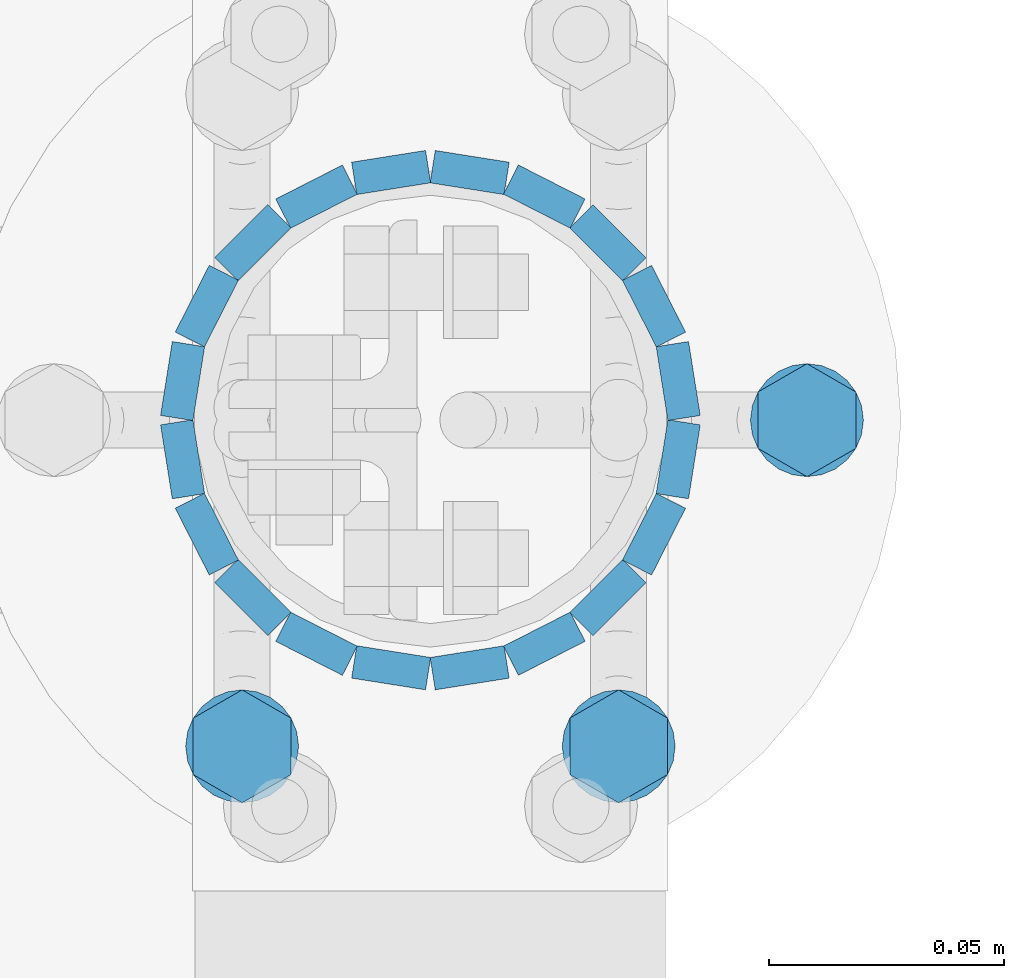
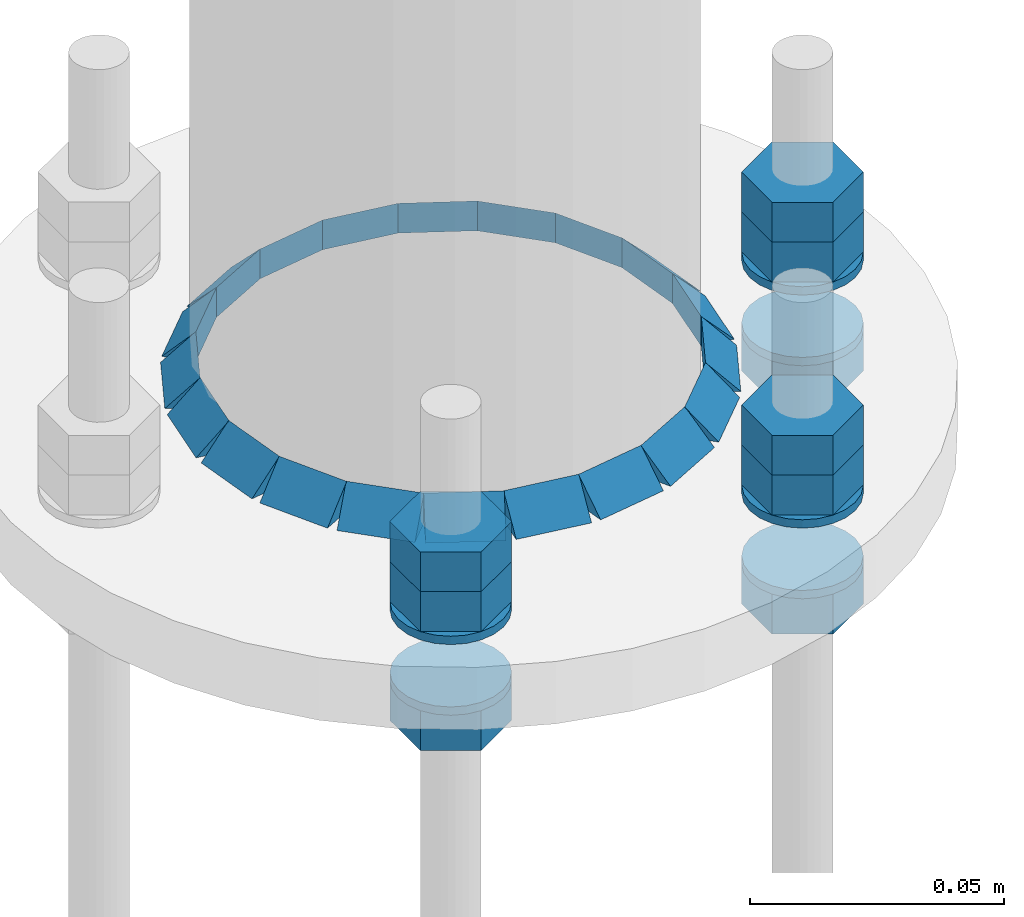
# One storey, part 81 of 84: 40 fasteners, 15 mechanical fasteners.
"""IFC4 building model written with IfcOpenShell, lengths in metres."""

from ifc_helpers import new_model, si_unit, frame, origin_with_axes, place, context, project, spatial, polyline, outline, extrude, type_object, element, save


model = new_model("IFC4")

# Units and contexts
model_context = context("Model", 3, precision=1e-05, world=origin_with_axes())
ifc_project = project(units=[si_unit("LENGTHUNIT", "METRE"), si_unit("AREAUNIT", "SQUARE_METRE"), si_unit("VOLUMEUNIT", "CUBIC_METRE"), si_unit("MASSUNIT", "GRAM", prefix="KILO"), si_unit("TIMEUNIT", "SECOND"), si_unit("PLANEANGLEUNIT", "RADIAN"), si_unit("SOLIDANGLEUNIT", "STERADIAN"), si_unit("THERMODYNAMICTEMPERATUREUNIT", "DEGREE_CELSIUS")], contexts=[model_context])

# Site, building, storey
placement_1 = place(None, origin_with_axes())
site = spatial("IfcSite", under=ifc_project, at=placement_1, Name="Italia", CompositionType="ELEMENT")
building = spatial("IfcBuilding", under=site, at=placement_1, Name="Tettoia", CompositionType="ELEMENT")
storey_placement = place(None, frame((0.0, 0.0, 4.199999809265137), z_axis=(0.0, 0.0, 1.0), x_axis=(1.0, 0.0, 0.0)))
storey = spatial("IfcBuildingStorey", under=building, at=storey_placement, Name="Storey 1", CompositionType="ELEMENT", Elevation=4.199999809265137)

# Fasteners
fastener_type_1 = type_object("IfcFastenerType", Name="Collegamento -015_0115", PredefinedType="WELD")
placement_2 = place(placement_1, origin_with_axes())
fastener_1_placement = place(placement_2, origin_with_axes())
element("IfcFastener", 1, at=fastener_1_placement, inside=storey, type_object=fastener_type_1, Name="Collegamento -015_0115", context=model_context, shape_type="SweptSolid", body=[
    extrude(outline(polyline([(0.0, 0.0), (0.0069561, 0.00717354), (0.0069561, 0.0), (0.0, 0.0)])), frame((4.08674, 19.8748, 4.01495), z_axis=(-0.987689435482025, 0.156427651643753, 0.0), x_axis=(-0.156427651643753, -0.987689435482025, 0.0)), (0.0, 0.0, 1.0), 0.0158999),
])
fastener_type_2 = type_object("IfcFastenerType", Name="Collegamento -015_0115", PredefinedType="WELD")
fastener_2_placement = place(placement_2, origin_with_axes())
element("IfcFastener", 2, at=fastener_2_placement, inside=storey, type_object=fastener_type_2, Name="Collegamento -015_0115", context=model_context, shape_type="SweptSolid", body=[
    extrude(outline(polyline([(0.0, 0.0), (0.00695801, 0.00717354), (0.00695801, 0.0), (0.0, 0.0)])), frame((4.10286, 19.867, 4.01495), z_axis=(-0.890982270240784, 0.454038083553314, 0.0), x_axis=(-0.454038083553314, -0.890982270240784, 0.0)), (0.0, 0.0, 1.0), 0.0159002),
])
fastener_type_3 = type_object("IfcFastenerType", Name="Collegamento -015_0115", PredefinedType="WELD")
fastener_3_placement = place(placement_2, origin_with_axes())
element("IfcFastener", 3, at=fastener_3_placement, inside=storey, type_object=fastener_type_3, Name="Collegamento -015_0115", context=model_context, shape_type="SweptSolid", body=[
    extrude(outline(polyline([(0.0, 0.0), (0.00695992, 0.00717354), (0.00695992, 0.0), (0.0, 0.0)])), frame((4.11578, 19.8545, 4.01495), z_axis=(-0.707136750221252, 0.707076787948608, 0.0), x_axis=(-0.707076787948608, -0.707136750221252, 0.0)), (0.0, 0.0, 1.0), 0.0158991),
])
fastener_type_4 = type_object("IfcFastenerType", Name="Collegamento -015_0115", PredefinedType="WELD")
fastener_4_placement = place(placement_2, origin_with_axes())
element("IfcFastener", 4, at=fastener_4_placement, inside=storey, type_object=fastener_type_4, Name="Collegamento -015_0115", context=model_context, shape_type="SweptSolid", body=[
    extrude(outline(polyline([(0.0, 0.0), (0.00695705, 0.00717354), (0.00695705, 0.0), (0.0, 0.0)])), frame((4.12421, 19.8387, 4.01495), z_axis=(-0.453966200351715, 0.891018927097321, 0.0), x_axis=(-0.891018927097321, -0.453966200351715, 0.0)), (0.0, 0.0, 1.0), 0.0159007),
])
fastener_type_5 = type_object("IfcFastenerType", Name="Collegamento -015_0115", PredefinedType="WELD")
fastener_5_placement = place(placement_2, origin_with_axes())
element("IfcFastener", 5, at=fastener_5_placement, inside=storey, type_object=fastener_type_5, Name="Collegamento -015_0115", context=model_context, shape_type="SweptSolid", body=[
    extrude(outline(polyline([(0.0, 0.0), (0.00695848, 0.00717354), (0.00695848, 0.0), (0.0, 0.0)])), frame((4.12733, 19.821, 4.01495), z_axis=(-0.156436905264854, 0.987687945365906, 0.0), x_axis=(-0.987687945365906, -0.156436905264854, 0.0)), (0.0, 0.0, 1.0), 0.015899),
])
fastener_type_6 = type_object("IfcFastenerType", Name="Collegamento -015_0115", PredefinedType="WELD")
fastener_6_placement = place(placement_2, origin_with_axes())
element("IfcFastener", 6, at=fastener_6_placement, inside=storey, type_object=fastener_type_6, Name="Collegamento -015_0115", context=model_context, shape_type="SweptSolid", body=[
    extrude(outline(polyline([(0.0, 0.0), (0.00695777, 0.00717354), (0.00695777, 0.0), (0.0, 0.0)])), frame((4.12484, 19.8033, 4.01495), z_axis=(0.156436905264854, 0.987687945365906, 0.0), x_axis=(-0.987687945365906, 0.156436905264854, 0.0)), (0.0, 0.0, 1.0), 0.015899),
])
fastener_type_7 = type_object("IfcFastenerType", Name="Collegamento -015_0115", PredefinedType="WELD")
fastener_7_placement = place(placement_2, origin_with_axes())
element("IfcFastener", 7, at=fastener_7_placement, inside=storey, type_object=fastener_type_7, Name="Collegamento -015_0115", context=model_context, shape_type="SweptSolid", body=[
    extrude(outline(polyline([(0.0, 0.0), (0.00695944, 0.00717354), (0.00695944, 0.0), (0.0, 0.0)])), frame((4.11699, 19.7871, 4.01495), z_axis=(0.453966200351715, 0.891018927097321, 0.0), x_axis=(-0.891018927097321, 0.453966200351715, 0.0)), (0.0, 0.0, 1.0), 0.0159007),
])
fastener_type_8 = type_object("IfcFastenerType", Name="Collegamento -015_0115", PredefinedType="WELD")
fastener_8_placement = place(placement_2, origin_with_axes())
element("IfcFastener", 8, at=fastener_8_placement, inside=storey, type_object=fastener_type_8, Name="Collegamento -015_0115", context=model_context, shape_type="SweptSolid", body=[
    extrude(outline(polyline([(0.0, 0.0), (0.00695896, 0.00717354), (0.00695896, 0.0), (0.0, 0.0)])), frame((4.10453, 19.7742, 4.01495), z_axis=(0.707136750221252, 0.707076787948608, 0.0), x_axis=(-0.707076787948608, 0.707136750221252, 0.0)), (0.0, 0.0, 1.0), 0.0158991),
])
fastener_type_9 = type_object("IfcFastenerType", Name="Collegamento -015_0115", PredefinedType="WELD")
fastener_9_placement = place(placement_2, origin_with_axes())
element("IfcFastener", 9, at=fastener_9_placement, inside=storey, type_object=fastener_type_9, Name="Collegamento -015_0115", context=model_context, shape_type="SweptSolid", body=[
    extrude(outline(polyline([(0.0, 0.0), (0.0069561, 0.00717354), (0.0069561, 0.0), (0.0, 0.0)])), frame((4.0887, 19.7658, 4.01495), z_axis=(0.890982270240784, 0.454038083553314, 0.0), x_axis=(-0.454038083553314, 0.890982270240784, 0.0)), (0.0, 0.0, 1.0), 0.0159002),
])
fastener_type_10 = type_object("IfcFastenerType", Name="Collegamento -015_0115", PredefinedType="WELD")
fastener_10_placement = place(placement_2, origin_with_axes())
element("IfcFastener", 10, at=fastener_10_placement, inside=storey, type_object=fastener_type_10, Name="Collegamento -015_0115", context=model_context, shape_type="SweptSolid", body=[
    extrude(outline(polyline([(0.0, 0.0), (0.00695801, 0.00717354), (0.00695801, 0.0), (0.0, 0.0)])), frame((4.07103, 19.7627, 4.01495), z_axis=(0.987689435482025, 0.156427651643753, 0.0), x_axis=(-0.156427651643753, 0.987689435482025, 0.0)), (0.0, 0.0, 1.0), 0.0158999),
])
fastener_type_11 = type_object("IfcFastenerType", Name="Collegamento -015_0115", PredefinedType="WELD")
fastener_11_placement = place(placement_2, origin_with_axes())
element("IfcFastener", 11, at=fastener_11_placement, inside=storey, type_object=fastener_type_11, Name="Collegamento -015_0115", context=model_context, shape_type="SweptSolid", body=[
    extrude(outline(polyline([(0.0, 0.0), (0.00695801, 0.00717354), (0.00695801, 0.0), (0.0, 0.0)])), frame((4.05326, 19.7652, 4.01495), z_axis=(0.987689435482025, -0.156427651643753, 0.0), x_axis=(0.156427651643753, 0.987689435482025, 0.0)), (0.0, 0.0, 1.0), 0.0158999),
])
fastener_type_12 = type_object("IfcFastenerType", Name="Collegamento -015_0115", PredefinedType="WELD")
fastener_12_placement = place(placement_2, origin_with_axes())
element("IfcFastener", 12, at=fastener_12_placement, inside=storey, type_object=fastener_type_12, Name="Collegamento -015_0115", context=model_context, shape_type="SweptSolid", body=[
    extrude(outline(polyline([(0.0, 0.0), (0.00695801, 0.00717354), (0.00695801, 0.0), (0.0, 0.0)])), frame((4.03714, 19.773, 4.01495), z_axis=(0.890982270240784, -0.454038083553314, 0.0), x_axis=(0.454038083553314, 0.890982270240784, 0.0)), (0.0, 0.0, 1.0), 0.0159002),
])
fastener_type_13 = type_object("IfcFastenerType", Name="Collegamento -015_0115", PredefinedType="WELD")
fastener_13_placement = place(placement_2, origin_with_axes())
element("IfcFastener", 13, at=fastener_13_placement, inside=storey, type_object=fastener_type_13, Name="Collegamento -015_0115", context=model_context, shape_type="SweptSolid", body=[
    extrude(outline(polyline([(0.0, 0.0), (0.00695801, 0.00717354), (0.00695801, 0.0), (0.0, 0.0)])), frame((4.02422, 19.7855, 4.01495), z_axis=(0.707136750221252, -0.707076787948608, 0.0), x_axis=(0.707076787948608, 0.707136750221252, 0.0)), (0.0, 0.0, 1.0), 0.0158991),
])
fastener_type_14 = type_object("IfcFastenerType", Name="Collegamento -015_0115", PredefinedType="WELD")
fastener_14_placement = place(placement_2, origin_with_axes())
element("IfcFastener", 14, at=fastener_14_placement, inside=storey, type_object=fastener_type_14, Name="Collegamento -015_0115", context=model_context, shape_type="SweptSolid", body=[
    extrude(outline(polyline([(0.0, 0.0), (0.00695801, 0.00717354), (0.00695801, 0.0), (0.0, 0.0)])), frame((4.01579, 19.8013, 4.01495), z_axis=(0.453966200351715, -0.891018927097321, 0.0), x_axis=(0.891018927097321, 0.453966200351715, 0.0)), (0.0, 0.0, 1.0), 0.0159007),
])
fastener_type_15 = type_object("IfcFastenerType", Name="Collegamento -015_0115", PredefinedType="WELD")
fastener_15_placement = place(placement_2, origin_with_axes())
element("IfcFastener", 15, at=fastener_15_placement, inside=storey, type_object=fastener_type_15, Name="Collegamento -015_0115", context=model_context, shape_type="SweptSolid", body=[
    extrude(outline(polyline([(0.0, 0.0), (0.00695848, 0.00717354), (0.00695848, 0.0), (0.0, 0.0)])), frame((4.01267, 19.819, 4.01495), z_axis=(0.156436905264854, -0.987687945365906, 0.0), x_axis=(0.987687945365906, 0.156436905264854, 0.0)), (0.0, 0.0, 1.0), 0.015899),
])
fastener_type_16 = type_object("IfcFastenerType", Name="Collegamento -015_0115", PredefinedType="WELD")
fastener_16_placement = place(placement_2, origin_with_axes())
element("IfcFastener", 16, at=fastener_16_placement, inside=storey, type_object=fastener_type_16, Name="Collegamento -015_0115", context=model_context, shape_type="SweptSolid", body=[
    extrude(outline(polyline([(0.0, 0.0), (0.00695801, 0.00717354), (0.00695801, 0.0), (0.0, 0.0)])), frame((4.01516, 19.8367, 4.01495), z_axis=(-0.156436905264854, -0.987687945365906, 0.0), x_axis=(0.987687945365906, -0.156436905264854, 0.0)), (0.0, 0.0, 1.0), 0.015899),
])
fastener_type_17 = type_object("IfcFastenerType", Name="Collegamento -015_0115", PredefinedType="WELD")
fastener_17_placement = place(placement_2, origin_with_axes())
element("IfcFastener", 17, at=fastener_17_placement, inside=storey, type_object=fastener_type_17, Name="Collegamento -015_0115", context=model_context, shape_type="SweptSolid", body=[
    extrude(outline(polyline([(0.0, 0.0), (0.00695848, 0.00717354), (0.00695848, 0.0), (0.0, 0.0)])), frame((4.02301, 19.8529, 4.01495), z_axis=(-0.453966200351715, -0.891018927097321, 0.0), x_axis=(0.891018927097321, -0.453966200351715, 0.0)), (0.0, 0.0, 1.0), 0.0159007),
])
fastener_type_18 = type_object("IfcFastenerType", Name="Collegamento -015_0115", PredefinedType="WELD")
fastener_18_placement = place(placement_2, origin_with_axes())
element("IfcFastener", 18, at=fastener_18_placement, inside=storey, type_object=fastener_type_18, Name="Collegamento -015_0115", context=model_context, shape_type="SweptSolid", body=[
    extrude(outline(polyline([(0.0, 0.0), (0.00695896, 0.00717354), (0.00695896, 0.0), (0.0, 0.0)])), frame((4.03547, 19.8658, 4.01495), z_axis=(-0.707136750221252, -0.707076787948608, 0.0), x_axis=(0.707076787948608, -0.707136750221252, 0.0)), (0.0, 0.0, 1.0), 0.0158991),
])
fastener_type_19 = type_object("IfcFastenerType", Name="Collegamento -015_0115", PredefinedType="WELD")
fastener_19_placement = place(placement_2, origin_with_axes())
element("IfcFastener", 19, at=fastener_19_placement, inside=storey, type_object=fastener_type_19, Name="Collegamento -015_0115", context=model_context, shape_type="SweptSolid", body=[
    extrude(outline(polyline([(0.0, 0.0), (0.00695801, 0.00717354), (0.00695801, 0.0), (0.0, 0.0)])), frame((4.0513, 19.8742, 4.01495), z_axis=(-0.890982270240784, -0.454038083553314, 0.0), x_axis=(0.454038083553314, -0.890982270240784, 0.0)), (0.0, 0.0, 1.0), 0.0159002),
])
fastener_type_20 = type_object("IfcFastenerType", Name="Collegamento -015_0115", PredefinedType="WELD")
fastener_20_placement = place(placement_2, origin_with_axes())
element("IfcFastener", 20, at=fastener_20_placement, inside=storey, type_object=fastener_type_20, Name="Collegamento -015_0115", context=model_context, shape_type="SweptSolid", body=[
    extrude(outline(polyline([(0.0, 0.0), (0.00695801, 0.00717354), (0.00695801, 0.0), (0.0, 0.0)])), frame((4.06897, 19.8773, 4.01495), z_axis=(-0.987689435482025, -0.156427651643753, 0.0), x_axis=(0.156427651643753, -0.987689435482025, 0.0)), (0.0, 0.0, 1.0), 0.0158999),
])
fastener_type_21 = type_object("IfcFastenerType", Name="Collegamento -015_0115", PredefinedType="WELD")
fastener_21_placement = place(placement_2, origin_with_axes())
element("IfcFastener", 21, at=fastener_21_placement, inside=storey, type_object=fastener_type_21, Name="Collegamento -015_0115", context=model_context, shape_type="SweptSolid", body=[
    extrude(outline(polyline([(0.0, 0.0), (0.0069561, 0.00717354), (0.0069561, 0.0), (0.0, 0.0)])), frame((4.08674, 19.8748, 4.01495), z_axis=(-0.987689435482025, 0.156427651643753, 0.0), x_axis=(-0.156427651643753, -0.987689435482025, 0.0)), (0.0, 0.0, 1.0), 0.0158999),
])
fastener_type_22 = type_object("IfcFastenerType", Name="Collegamento -015_0115", PredefinedType="WELD")
fastener_22_placement = place(placement_2, origin_with_axes())
element("IfcFastener", 22, at=fastener_22_placement, inside=storey, type_object=fastener_type_22, Name="Collegamento -015_0115", context=model_context, shape_type="SweptSolid", body=[
    extrude(outline(polyline([(0.0, 0.0), (0.00695801, 0.00717354), (0.00695801, 0.0), (0.0, 0.0)])), frame((4.10286, 19.867, 4.01495), z_axis=(-0.890982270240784, 0.454038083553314, 0.0), x_axis=(-0.454038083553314, -0.890982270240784, 0.0)), (0.0, 0.0, 1.0), 0.0159002),
])
fastener_type_23 = type_object("IfcFastenerType", Name="Collegamento -015_0115", PredefinedType="WELD")
fastener_23_placement = place(placement_2, origin_with_axes())
element("IfcFastener", 23, at=fastener_23_placement, inside=storey, type_object=fastener_type_23, Name="Collegamento -015_0115", context=model_context, shape_type="SweptSolid", body=[
    extrude(outline(polyline([(0.0, 0.0), (0.00695992, 0.00717354), (0.00695992, 0.0), (0.0, 0.0)])), frame((4.11578, 19.8545, 4.01495), z_axis=(-0.707136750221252, 0.707076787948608, 0.0), x_axis=(-0.707076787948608, -0.707136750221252, 0.0)), (0.0, 0.0, 1.0), 0.0158991),
])
fastener_type_24 = type_object("IfcFastenerType", Name="Collegamento -015_0115", PredefinedType="WELD")
fastener_24_placement = place(placement_2, origin_with_axes())
element("IfcFastener", 24, at=fastener_24_placement, inside=storey, type_object=fastener_type_24, Name="Collegamento -015_0115", context=model_context, shape_type="SweptSolid", body=[
    extrude(outline(polyline([(0.0, 0.0), (0.00695705, 0.00717354), (0.00695705, 0.0), (0.0, 0.0)])), frame((4.12421, 19.8387, 4.01495), z_axis=(-0.453966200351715, 0.891018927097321, 0.0), x_axis=(-0.891018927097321, -0.453966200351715, 0.0)), (0.0, 0.0, 1.0), 0.0159007),
])
fastener_type_25 = type_object("IfcFastenerType", Name="Collegamento -015_0115", PredefinedType="WELD")
fastener_25_placement = place(placement_2, origin_with_axes())
element("IfcFastener", 25, at=fastener_25_placement, inside=storey, type_object=fastener_type_25, Name="Collegamento -015_0115", context=model_context, shape_type="SweptSolid", body=[
    extrude(outline(polyline([(0.0, 0.0), (0.00695848, 0.00717354), (0.00695848, 0.0), (0.0, 0.0)])), frame((4.12733, 19.821, 4.01495), z_axis=(-0.156436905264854, 0.987687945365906, 0.0), x_axis=(-0.987687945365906, -0.156436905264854, 0.0)), (0.0, 0.0, 1.0), 0.015899),
])
fastener_type_26 = type_object("IfcFastenerType", Name="Collegamento -015_0115", PredefinedType="WELD")
fastener_26_placement = place(placement_2, origin_with_axes())
element("IfcFastener", 26, at=fastener_26_placement, inside=storey, type_object=fastener_type_26, Name="Collegamento -015_0115", context=model_context, shape_type="SweptSolid", body=[
    extrude(outline(polyline([(0.0, 0.0), (0.00695777, 0.00717354), (0.00695777, 0.0), (0.0, 0.0)])), frame((4.12484, 19.8033, 4.01495), z_axis=(0.156436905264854, 0.987687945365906, 0.0), x_axis=(-0.987687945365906, 0.156436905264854, 0.0)), (0.0, 0.0, 1.0), 0.015899),
])
fastener_type_27 = type_object("IfcFastenerType", Name="Collegamento -015_0115", PredefinedType="WELD")
fastener_27_placement = place(placement_2, origin_with_axes())
element("IfcFastener", 27, at=fastener_27_placement, inside=storey, type_object=fastener_type_27, Name="Collegamento -015_0115", context=model_context, shape_type="SweptSolid", body=[
    extrude(outline(polyline([(0.0, 0.0), (0.00695944, 0.00717354), (0.00695944, 0.0), (0.0, 0.0)])), frame((4.11699, 19.7871, 4.01495), z_axis=(0.453966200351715, 0.891018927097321, 0.0), x_axis=(-0.891018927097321, 0.453966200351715, 0.0)), (0.0, 0.0, 1.0), 0.0159007),
])
fastener_type_28 = type_object("IfcFastenerType", Name="Collegamento -015_0115", PredefinedType="WELD")
fastener_28_placement = place(placement_2, origin_with_axes())
element("IfcFastener", 28, at=fastener_28_placement, inside=storey, type_object=fastener_type_28, Name="Collegamento -015_0115", context=model_context, shape_type="SweptSolid", body=[
    extrude(outline(polyline([(0.0, 0.0), (0.00695896, 0.00717354), (0.00695896, 0.0), (0.0, 0.0)])), frame((4.10453, 19.7742, 4.01495), z_axis=(0.707136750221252, 0.707076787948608, 0.0), x_axis=(-0.707076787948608, 0.707136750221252, 0.0)), (0.0, 0.0, 1.0), 0.0158991),
])
fastener_type_29 = type_object("IfcFastenerType", Name="Collegamento -015_0115", PredefinedType="WELD")
fastener_29_placement = place(placement_2, origin_with_axes())
element("IfcFastener", 29, at=fastener_29_placement, inside=storey, type_object=fastener_type_29, Name="Collegamento -015_0115", context=model_context, shape_type="SweptSolid", body=[
    extrude(outline(polyline([(0.0, 0.0), (0.0069561, 0.00717354), (0.0069561, 0.0), (0.0, 0.0)])), frame((4.0887, 19.7658, 4.01495), z_axis=(0.890982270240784, 0.454038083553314, 0.0), x_axis=(-0.454038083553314, 0.890982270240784, 0.0)), (0.0, 0.0, 1.0), 0.0159002),
])
fastener_type_30 = type_object("IfcFastenerType", Name="Collegamento -015_0115", PredefinedType="WELD")
fastener_30_placement = place(placement_2, origin_with_axes())
element("IfcFastener", 30, at=fastener_30_placement, inside=storey, type_object=fastener_type_30, Name="Collegamento -015_0115", context=model_context, shape_type="SweptSolid", body=[
    extrude(outline(polyline([(0.0, 0.0), (0.00695801, 0.00717354), (0.00695801, 0.0), (0.0, 0.0)])), frame((4.07103, 19.7627, 4.01495), z_axis=(0.987689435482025, 0.156427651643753, 0.0), x_axis=(-0.156427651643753, 0.987689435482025, 0.0)), (0.0, 0.0, 1.0), 0.0158999),
])
fastener_type_31 = type_object("IfcFastenerType", Name="Collegamento -015_0115", PredefinedType="WELD")
fastener_31_placement = place(placement_2, origin_with_axes())
element("IfcFastener", 31, at=fastener_31_placement, inside=storey, type_object=fastener_type_31, Name="Collegamento -015_0115", context=model_context, shape_type="SweptSolid", body=[
    extrude(outline(polyline([(0.0, 0.0), (0.00695801, 0.00717354), (0.00695801, 0.0), (0.0, 0.0)])), frame((4.05326, 19.7652, 4.01495), z_axis=(0.987689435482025, -0.156427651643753, 0.0), x_axis=(0.156427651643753, 0.987689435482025, 0.0)), (0.0, 0.0, 1.0), 0.0158999),
])
fastener_type_32 = type_object("IfcFastenerType", Name="Collegamento -015_0115", PredefinedType="WELD")
fastener_32_placement = place(placement_2, origin_with_axes())
element("IfcFastener", 32, at=fastener_32_placement, inside=storey, type_object=fastener_type_32, Name="Collegamento -015_0115", context=model_context, shape_type="SweptSolid", body=[
    extrude(outline(polyline([(0.0, 0.0), (0.00695801, 0.00717354), (0.00695801, 0.0), (0.0, 0.0)])), frame((4.03714, 19.773, 4.01495), z_axis=(0.890982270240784, -0.454038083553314, 0.0), x_axis=(0.454038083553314, 0.890982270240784, 0.0)), (0.0, 0.0, 1.0), 0.0159002),
])
fastener_type_33 = type_object("IfcFastenerType", Name="Collegamento -015_0115", PredefinedType="WELD")
fastener_33_placement = place(placement_2, origin_with_axes())
element("IfcFastener", 33, at=fastener_33_placement, inside=storey, type_object=fastener_type_33, Name="Collegamento -015_0115", context=model_context, shape_type="SweptSolid", body=[
    extrude(outline(polyline([(0.0, 0.0), (0.00695801, 0.00717354), (0.00695801, 0.0), (0.0, 0.0)])), frame((4.02422, 19.7855, 4.01495), z_axis=(0.707136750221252, -0.707076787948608, 0.0), x_axis=(0.707076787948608, 0.707136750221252, 0.0)), (0.0, 0.0, 1.0), 0.0158991),
])
fastener_type_34 = type_object("IfcFastenerType", Name="Collegamento -015_0115", PredefinedType="WELD")
fastener_34_placement = place(placement_2, origin_with_axes())
element("IfcFastener", 34, at=fastener_34_placement, inside=storey, type_object=fastener_type_34, Name="Collegamento -015_0115", context=model_context, shape_type="SweptSolid", body=[
    extrude(outline(polyline([(0.0, 0.0), (0.00695801, 0.00717354), (0.00695801, 0.0), (0.0, 0.0)])), frame((4.01579, 19.8013, 4.01495), z_axis=(0.453966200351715, -0.891018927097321, 0.0), x_axis=(0.891018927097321, 0.453966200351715, 0.0)), (0.0, 0.0, 1.0), 0.0159007),
])
fastener_type_35 = type_object("IfcFastenerType", Name="Collegamento -015_0115", PredefinedType="WELD")
fastener_35_placement = place(placement_2, origin_with_axes())
element("IfcFastener", 35, at=fastener_35_placement, inside=storey, type_object=fastener_type_35, Name="Collegamento -015_0115", context=model_context, shape_type="SweptSolid", body=[
    extrude(outline(polyline([(0.0, 0.0), (0.00695848, 0.00717354), (0.00695848, 0.0), (0.0, 0.0)])), frame((4.01267, 19.819, 4.01495), z_axis=(0.156436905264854, -0.987687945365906, 0.0), x_axis=(0.987687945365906, 0.156436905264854, 0.0)), (0.0, 0.0, 1.0), 0.015899),
])
fastener_type_36 = type_object("IfcFastenerType", Name="Collegamento -015_0115", PredefinedType="WELD")
fastener_36_placement = place(placement_2, origin_with_axes())
element("IfcFastener", 36, at=fastener_36_placement, inside=storey, type_object=fastener_type_36, Name="Collegamento -015_0115", context=model_context, shape_type="SweptSolid", body=[
    extrude(outline(polyline([(0.0, 0.0), (0.00695801, 0.00717354), (0.00695801, 0.0), (0.0, 0.0)])), frame((4.01516, 19.8367, 4.01495), z_axis=(-0.156436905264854, -0.987687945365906, 0.0), x_axis=(0.987687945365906, -0.156436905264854, 0.0)), (0.0, 0.0, 1.0), 0.015899),
])
fastener_type_37 = type_object("IfcFastenerType", Name="Collegamento -015_0115", PredefinedType="WELD")
fastener_37_placement = place(placement_2, origin_with_axes())
element("IfcFastener", 37, at=fastener_37_placement, inside=storey, type_object=fastener_type_37, Name="Collegamento -015_0115", context=model_context, shape_type="SweptSolid", body=[
    extrude(outline(polyline([(0.0, 0.0), (0.00695848, 0.00717354), (0.00695848, 0.0), (0.0, 0.0)])), frame((4.02301, 19.8529, 4.01495), z_axis=(-0.453966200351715, -0.891018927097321, 0.0), x_axis=(0.891018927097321, -0.453966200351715, 0.0)), (0.0, 0.0, 1.0), 0.0159007),
])
fastener_type_38 = type_object("IfcFastenerType", Name="Collegamento -015_0115", PredefinedType="WELD")
fastener_38_placement = place(placement_2, origin_with_axes())
element("IfcFastener", 38, at=fastener_38_placement, inside=storey, type_object=fastener_type_38, Name="Collegamento -015_0115", context=model_context, shape_type="SweptSolid", body=[
    extrude(outline(polyline([(0.0, 0.0), (0.00695896, 0.00717354), (0.00695896, 0.0), (0.0, 0.0)])), frame((4.03547, 19.8658, 4.01495), z_axis=(-0.707136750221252, -0.707076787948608, 0.0), x_axis=(0.707076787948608, -0.707136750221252, 0.0)), (0.0, 0.0, 1.0), 0.0158991),
])
fastener_type_39 = type_object("IfcFastenerType", Name="Collegamento -015_0115", PredefinedType="WELD")
fastener_39_placement = place(placement_2, origin_with_axes())
element("IfcFastener", 39, at=fastener_39_placement, inside=storey, type_object=fastener_type_39, Name="Collegamento -015_0115", context=model_context, shape_type="SweptSolid", body=[
    extrude(outline(polyline([(0.0, 0.0), (0.00695801, 0.00717354), (0.00695801, 0.0), (0.0, 0.0)])), frame((4.0513, 19.8742, 4.01495), z_axis=(-0.890982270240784, -0.454038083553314, 0.0), x_axis=(0.454038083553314, -0.890982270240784, 0.0)), (0.0, 0.0, 1.0), 0.0159002),
])
fastener_type_40 = type_object("IfcFastenerType", Name="Collegamento -015_0115", PredefinedType="WELD")
fastener_40_placement = place(placement_2, origin_with_axes())
element("IfcFastener", 40, at=fastener_40_placement, inside=storey, type_object=fastener_type_40, Name="Collegamento -015_0115", context=model_context, shape_type="SweptSolid", body=[
    extrude(outline(polyline([(0.0, 0.0), (0.00695801, 0.00717354), (0.00695801, 0.0), (0.0, 0.0)])), frame((4.06897, 19.8773, 4.01495), z_axis=(-0.987689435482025, -0.156427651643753, 0.0), x_axis=(0.156427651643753, -0.987689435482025, 0.0)), (0.0, 0.0, 1.0), 0.0158999),
])

# Mechanical fasteners
mechanical_fastener_type_1 = type_object("IfcMechanicalFastenerType", Name="Collegamento -015_0115", PredefinedType="BOLT")
mechanical_fastener_1_placement = place(placement_2, origin_with_axes())
element("IfcMechanicalFastener", 41, at=mechanical_fastener_1_placement, inside=storey, type_object=mechanical_fastener_type_1, Name="Collegamento -015_0115", NominalDiameter=0.0119991, context=model_context, shape_type="SweptSolid", body=[
    extrude(outline(polyline([(0.0, 0.0), (-0.0119991, 0.0), (-0.0179996, 0.0103922), (-0.0119991, 0.0207844), (0.0, 0.0207844), (0.00600052, 0.0103922), (0.0, 0.0)])), frame((4.04039, 19.7567, 4.017), z_axis=(0.0, 0.0, 1.0), x_axis=(0.0, 1.0, 0.0)), (0.0, 0.0, 1.0), 0.00959969),
])
mechanical_fastener_type_2 = type_object("IfcMechanicalFastenerType", Name="Collegamento -015_0115", PredefinedType="BOLT")
mechanical_fastener_2_placement = place(placement_2, origin_with_axes())
element("IfcMechanicalFastener", 42, at=mechanical_fastener_2_placement, inside=storey, type_object=mechanical_fastener_type_2, Name="Collegamento -015_0115", NominalDiameter=0.0119991, context=model_context, shape_type="SweptSolid", body=[
    extrude(outline(polyline([(0.0, 0.0), (-0.0119991, 0.0), (-0.0179996, 0.0103922), (-0.0119991, 0.0207844), (0.0, 0.0207844), (0.00600052, 0.0103922), (0.0, 0.0)])), frame((4.04039, 19.7567, 4.0266), z_axis=(0.0, 0.0, 1.0), x_axis=(0.0, 1.0, 0.0)), (0.0, 0.0, 1.0), 0.00960016),
])
mechanical_fastener_type_3 = type_object("IfcMechanicalFastenerType", Name="Collegamento -015_0115", PredefinedType="BOLT")
mechanical_fastener_3_placement = place(placement_2, origin_with_axes())
element("IfcMechanicalFastener", 43, at=mechanical_fastener_3_placement, inside=storey, type_object=mechanical_fastener_type_3, Name="Collegamento -015_0115", NominalDiameter=0.0119991, context=model_context, shape_type="SweptSolid", body=[
    extrude(outline(polyline([(0.0, 0.0), (-0.0119991, 0.0), (-0.0179996, 0.0103922), (-0.0119991, 0.0207844), (0.0, 0.0207844), (0.00600052, 0.0103922), (0.0, 0.0)])), frame((4.04039, 19.7567, 3.9884), z_axis=(0.0, 0.0, 1.0), x_axis=(0.0, 1.0, 0.0)), (0.0, 0.0, 1.0), 0.00959992),
])
mechanical_fastener_type_4 = type_object("IfcMechanicalFastenerType", Name="Collegamento -015_0115", PredefinedType="BOLT")
mechanical_fastener_4_placement = place(placement_2, origin_with_axes())
element("IfcMechanicalFastener", 44, at=mechanical_fastener_4_placement, inside=storey, type_object=mechanical_fastener_type_4, Name="Collegamento -015_0115", NominalDiameter=0.024, context=model_context, shape_type="SweptSolid", body=[
    extrude(outline(polyline([(0.0, 0.0), (-0.000408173, -0.00310564), (-0.00160599, -0.00600004), (-0.00351334, -0.00848532), (-0.00599861, -0.0103922), (-0.00889397, -0.011591), (-0.0119991, -0.0120001), (-0.0151043, -0.011591), (-0.0179996, -0.0103922), (-0.0204849, -0.00848532), (-0.0223923, -0.00600004), (-0.0235901, -0.00310564), (-0.0239983, 0.0), (-0.0235901, 0.00310564), (-0.0223923, 0.00600004), (-0.0204849, 0.00848532), (-0.0179996, 0.0103922), (-0.0151043, 0.011591), (-0.0119991, 0.0120001), (-0.00889397, 0.011591), (-0.00599861, 0.0103922), (-0.00351334, 0.00848532), (-0.00160599, 0.00600004), (-0.000408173, 0.00310564), (0.0, 0.0)])), frame((4.03, 19.7627, 4.015), z_axis=(0.0, 0.0, 1.0), x_axis=(0.0, 1.0, 0.0)), (0.0, 0.0, 1.0), 0.00200033),
])
mechanical_fastener_type_5 = type_object("IfcMechanicalFastenerType", Name="Collegamento -015_0115", PredefinedType="BOLT")
mechanical_fastener_5_placement = place(placement_2, origin_with_axes())
element("IfcMechanicalFastener", 45, at=mechanical_fastener_5_placement, inside=storey, type_object=mechanical_fastener_type_5, Name="Collegamento -015_0115", NominalDiameter=0.024, context=model_context, shape_type="SweptSolid", body=[
    extrude(outline(polyline([(0.0, 0.0), (-0.000408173, -0.00310564), (-0.00160599, -0.00600004), (-0.00351334, -0.00848532), (-0.00599861, -0.0103922), (-0.00889397, -0.011591), (-0.0119991, -0.0120001), (-0.0151043, -0.011591), (-0.0179996, -0.0103922), (-0.0204849, -0.00848532), (-0.0223923, -0.00600004), (-0.0235901, -0.00310564), (-0.0239983, 0.0), (-0.0235901, 0.00310564), (-0.0223923, 0.00600004), (-0.0204849, 0.00848532), (-0.0179996, 0.0103922), (-0.0151043, 0.011591), (-0.0119991, 0.0120001), (-0.00889397, 0.011591), (-0.00599861, 0.0103922), (-0.00351334, 0.00848532), (-0.00160599, 0.00600004), (-0.000408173, 0.00310564), (0.0, 0.0)])), frame((4.03, 19.7627, 3.998), z_axis=(0.0, 0.0, 1.0), x_axis=(0.0, 1.0, 0.0)), (0.0, 0.0, 1.0), 0.00200009),
])
mechanical_fastener_type_6 = type_object("IfcMechanicalFastenerType", Name="Collegamento -015_0115", PredefinedType="BOLT")
mechanical_fastener_6_placement = place(placement_2, origin_with_axes())
element("IfcMechanicalFastener", 46, at=mechanical_fastener_6_placement, inside=storey, type_object=mechanical_fastener_type_6, Name="Collegamento -015_0115", NominalDiameter=0.0119991, context=model_context, shape_type="SweptSolid", body=[
    extrude(outline(polyline([(0.0, 0.0), (-0.0119991, 0.0), (-0.0179996, 0.0103922), (-0.0119991, 0.0207844), (0.0, 0.0207844), (0.00600052, 0.0103922), (0.0, 0.0)])), frame((4.12039, 19.7567, 4.017), z_axis=(0.0, 0.0, 1.0), x_axis=(0.0, 1.0, 0.0)), (0.0, 0.0, 1.0), 0.00959969),
])
mechanical_fastener_type_7 = type_object("IfcMechanicalFastenerType", Name="Collegamento -015_0115", PredefinedType="BOLT")
mechanical_fastener_7_placement = place(placement_2, origin_with_axes())
element("IfcMechanicalFastener", 47, at=mechanical_fastener_7_placement, inside=storey, type_object=mechanical_fastener_type_7, Name="Collegamento -015_0115", NominalDiameter=0.0119991, context=model_context, shape_type="SweptSolid", body=[
    extrude(outline(polyline([(0.0, 0.0), (-0.0119991, 0.0), (-0.0179996, 0.0103922), (-0.0119991, 0.0207844), (0.0, 0.0207844), (0.00600052, 0.0103922), (0.0, 0.0)])), frame((4.12039, 19.7567, 4.0266), z_axis=(0.0, 0.0, 1.0), x_axis=(0.0, 1.0, 0.0)), (0.0, 0.0, 1.0), 0.00960016),
])
mechanical_fastener_type_8 = type_object("IfcMechanicalFastenerType", Name="Collegamento -015_0115", PredefinedType="BOLT")
mechanical_fastener_8_placement = place(placement_2, origin_with_axes())
element("IfcMechanicalFastener", 48, at=mechanical_fastener_8_placement, inside=storey, type_object=mechanical_fastener_type_8, Name="Collegamento -015_0115", NominalDiameter=0.0119991, context=model_context, shape_type="SweptSolid", body=[
    extrude(outline(polyline([(0.0, 0.0), (-0.0119991, 0.0), (-0.0179996, 0.0103922), (-0.0119991, 0.0207844), (0.0, 0.0207844), (0.00600052, 0.0103922), (0.0, 0.0)])), frame((4.12039, 19.7567, 3.9884), z_axis=(0.0, 0.0, 1.0), x_axis=(0.0, 1.0, 0.0)), (0.0, 0.0, 1.0), 0.00959992),
])
mechanical_fastener_type_9 = type_object("IfcMechanicalFastenerType", Name="Collegamento -015_0115", PredefinedType="BOLT")
mechanical_fastener_9_placement = place(placement_2, origin_with_axes())
element("IfcMechanicalFastener", 49, at=mechanical_fastener_9_placement, inside=storey, type_object=mechanical_fastener_type_9, Name="Collegamento -015_0115", NominalDiameter=0.024, context=model_context, shape_type="SweptSolid", body=[
    extrude(outline(polyline([(0.0, 0.0), (-0.000408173, -0.00310564), (-0.00160599, -0.00600004), (-0.00351334, -0.00848532), (-0.00599861, -0.0103922), (-0.00889397, -0.011591), (-0.0119991, -0.0120001), (-0.0151043, -0.011591), (-0.0179996, -0.0103922), (-0.0204849, -0.00848532), (-0.0223923, -0.00600004), (-0.0235901, -0.00310564), (-0.0239983, 0.0), (-0.0235901, 0.00310564), (-0.0223923, 0.00600004), (-0.0204849, 0.00848532), (-0.0179996, 0.0103922), (-0.0151043, 0.011591), (-0.0119991, 0.0120001), (-0.00889397, 0.011591), (-0.00599861, 0.0103922), (-0.00351334, 0.00848532), (-0.00160599, 0.00600004), (-0.000408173, 0.00310564), (0.0, 0.0)])), frame((4.11, 19.7627, 4.015), z_axis=(0.0, 0.0, 1.0), x_axis=(0.0, 1.0, 0.0)), (0.0, 0.0, 1.0), 0.00200033),
])
mechanical_fastener_type_10 = type_object("IfcMechanicalFastenerType", Name="Collegamento -015_0115", PredefinedType="BOLT")
mechanical_fastener_10_placement = place(placement_2, origin_with_axes())
element("IfcMechanicalFastener", 50, at=mechanical_fastener_10_placement, inside=storey, type_object=mechanical_fastener_type_10, Name="Collegamento -015_0115", NominalDiameter=0.024, context=model_context, shape_type="SweptSolid", body=[
    extrude(outline(polyline([(0.0, 0.0), (-0.000408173, -0.00310564), (-0.00160599, -0.00600004), (-0.00351334, -0.00848532), (-0.00599861, -0.0103922), (-0.00889397, -0.011591), (-0.0119991, -0.0120001), (-0.0151043, -0.011591), (-0.0179996, -0.0103922), (-0.0204849, -0.00848532), (-0.0223923, -0.00600004), (-0.0235901, -0.00310564), (-0.0239983, 0.0), (-0.0235901, 0.00310564), (-0.0223923, 0.00600004), (-0.0204849, 0.00848532), (-0.0179996, 0.0103922), (-0.0151043, 0.011591), (-0.0119991, 0.0120001), (-0.00889397, 0.011591), (-0.00599861, 0.0103922), (-0.00351334, 0.00848532), (-0.00160599, 0.00600004), (-0.000408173, 0.00310564), (0.0, 0.0)])), frame((4.11, 19.7627, 3.998), z_axis=(0.0, 0.0, 1.0), x_axis=(0.0, 1.0, 0.0)), (0.0, 0.0, 1.0), 0.00200009),
])
mechanical_fastener_type_11 = type_object("IfcMechanicalFastenerType", Name="Collegamento -015_0115", PredefinedType="BOLT")
mechanical_fastener_11_placement = place(placement_2, origin_with_axes())
element("IfcMechanicalFastener", 51, at=mechanical_fastener_11_placement, inside=storey, type_object=mechanical_fastener_type_11, Name="Collegamento -015_0115", NominalDiameter=0.0119992, context=model_context, shape_type="SweptSolid", body=[
    extrude(outline(polyline([(0.0, 0.0), (-0.012001, 0.0), (-0.0179996, 0.0103922), (-0.012001, 0.0207844), (0.0, 0.0207844), (0.00599861, 0.0103922), (0.0, 0.0)])), frame((4.16039, 19.826, 4.017), z_axis=(0.0, 0.0, 1.0), x_axis=(0.0, 1.0, 0.0)), (0.0, 0.0, 1.0), 0.00959969),
])
mechanical_fastener_type_12 = type_object("IfcMechanicalFastenerType", Name="Collegamento -015_0115", PredefinedType="BOLT")
mechanical_fastener_12_placement = place(placement_2, origin_with_axes())
element("IfcMechanicalFastener", 52, at=mechanical_fastener_12_placement, inside=storey, type_object=mechanical_fastener_type_12, Name="Collegamento -015_0115", NominalDiameter=0.0119992, context=model_context, shape_type="SweptSolid", body=[
    extrude(outline(polyline([(0.0, 0.0), (-0.012001, 0.0), (-0.0179996, 0.0103922), (-0.012001, 0.0207844), (0.0, 0.0207844), (0.00599861, 0.0103922), (0.0, 0.0)])), frame((4.16039, 19.826, 4.0266), z_axis=(0.0, 0.0, 1.0), x_axis=(0.0, 1.0, 0.0)), (0.0, 0.0, 1.0), 0.00960016),
])
mechanical_fastener_type_13 = type_object("IfcMechanicalFastenerType", Name="Collegamento -015_0115", PredefinedType="BOLT")
mechanical_fastener_13_placement = place(placement_2, origin_with_axes())
element("IfcMechanicalFastener", 53, at=mechanical_fastener_13_placement, inside=storey, type_object=mechanical_fastener_type_13, Name="Collegamento -015_0115", NominalDiameter=0.0119992, context=model_context, shape_type="SweptSolid", body=[
    extrude(outline(polyline([(0.0, 0.0), (-0.012001, 0.0), (-0.0179996, 0.0103922), (-0.012001, 0.0207844), (0.0, 0.0207844), (0.00599861, 0.0103922), (0.0, 0.0)])), frame((4.16039, 19.826, 3.9884), z_axis=(0.0, 0.0, 1.0), x_axis=(0.0, 1.0, 0.0)), (0.0, 0.0, 1.0), 0.00959992),
])
mechanical_fastener_type_14 = type_object("IfcMechanicalFastenerType", Name="Collegamento -015_0115", PredefinedType="BOLT")
mechanical_fastener_14_placement = place(placement_2, origin_with_axes())
element("IfcMechanicalFastener", 54, at=mechanical_fastener_14_placement, inside=storey, type_object=mechanical_fastener_type_14, Name="Collegamento -015_0115", NominalDiameter=0.024, context=model_context, shape_type="SweptSolid", body=[
    extrude(outline(polyline([(0.0, 0.0), (-0.000408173, -0.00310564), (-0.00160599, -0.00600004), (-0.00351334, -0.00848532), (-0.00599861, -0.0103922), (-0.00889397, -0.011591), (-0.0119991, -0.0120001), (-0.0151043, -0.011591), (-0.0179996, -0.0103922), (-0.0204849, -0.00848532), (-0.0223923, -0.00600004), (-0.0235901, -0.00310564), (-0.0239983, 0.0), (-0.0235901, 0.00310564), (-0.0223923, 0.00600004), (-0.0204849, 0.00848532), (-0.0179996, 0.0103922), (-0.0151043, 0.011591), (-0.0119991, 0.0120001), (-0.00889397, 0.011591), (-0.00599861, 0.0103922), (-0.00351334, 0.00848532), (-0.00160599, 0.00600004), (-0.000408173, 0.00310564), (0.0, 0.0)])), frame((4.15, 19.832, 4.015), z_axis=(0.0, 0.0, 1.0), x_axis=(0.0, 1.0, 0.0)), (0.0, 0.0, 1.0), 0.00200033),
])
mechanical_fastener_type_15 = type_object("IfcMechanicalFastenerType", Name="Collegamento -015_0115", PredefinedType="BOLT")
mechanical_fastener_15_placement = place(placement_2, origin_with_axes())
element("IfcMechanicalFastener", 55, at=mechanical_fastener_15_placement, inside=storey, type_object=mechanical_fastener_type_15, Name="Collegamento -015_0115", NominalDiameter=0.024, context=model_context, shape_type="SweptSolid", body=[
    extrude(outline(polyline([(0.0, 0.0), (-0.000408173, -0.00310564), (-0.00160599, -0.00600004), (-0.00351334, -0.00848532), (-0.00599861, -0.0103922), (-0.00889397, -0.011591), (-0.0119991, -0.0120001), (-0.0151043, -0.011591), (-0.0179996, -0.0103922), (-0.0204849, -0.00848532), (-0.0223923, -0.00600004), (-0.0235901, -0.00310564), (-0.0239983, 0.0), (-0.0235901, 0.00310564), (-0.0223923, 0.00600004), (-0.0204849, 0.00848532), (-0.0179996, 0.0103922), (-0.0151043, 0.011591), (-0.0119991, 0.0120001), (-0.00889397, 0.011591), (-0.00599861, 0.0103922), (-0.00351334, 0.00848532), (-0.00160599, 0.00600004), (-0.000408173, 0.00310564), (0.0, 0.0)])), frame((4.15, 19.832, 3.998), z_axis=(0.0, 0.0, 1.0), x_axis=(0.0, 1.0, 0.0)), (0.0, 0.0, 1.0), 0.00200009),
])

save(model, "model.ifc")
